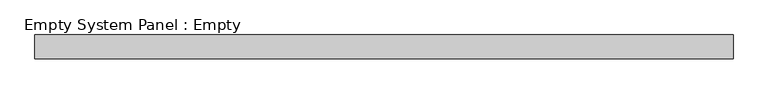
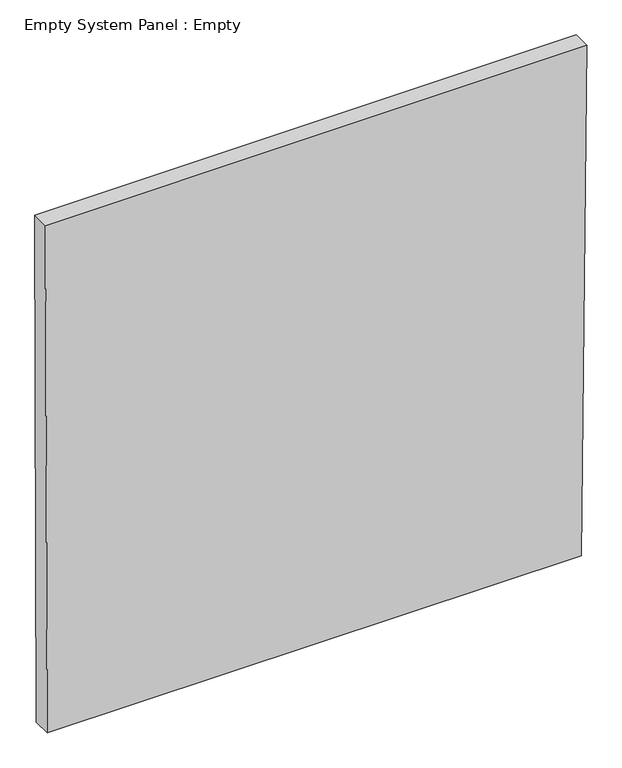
"""IFC4 building model written with IfcOpenShell, lengths in millimetres: plate geometry, Empty System Panel : Empty."""

from ifc_helpers import new_model, si_unit, frame, origin, place, context, project, spatial, polyline, outline, extrude, source, transform, mapped, element, save


def empty_system_panel_empty_326aa2c1(model_context):
    return source(origin(), model_context, "Body", "SweptSolid", [
        extrude(outline(polyline([(0.0, -1492.6618803), (0.0, 1472.4052184), (2982.7210253, 1501.2460491), (2977.1108373, -1501.2460491), (0.0, -1492.6618803)])), frame((0.0, -50.8, 0.0), z_axis=(0.0, 1.0, 0.0), x_axis=(0.0, 0.0, 1.0)), (0.0, 0.0, 1.0), 101.6),
    ])


if __name__ == "__main__":
    model = new_model("IFC4")
    model_context = context("Model", 3, world=origin())
    ifc_project = project(units=[si_unit("LENGTHUNIT", "METRE", prefix="MILLI")], contexts=[model_context])
    site = spatial("IfcSite", under=ifc_project)
    building = spatial("IfcBuilding", under=site)
    placement = place(None, origin())
    empty_system_panel_empty_shape = empty_system_panel_empty_326aa2c1(model_context)
    element("IfcPlate", 1, ObjectType="Empty System Panel : Empty", at=placement, inside=building, context=model_context, shape_type="MappedRepresentation", body=[
        mapped(empty_system_panel_empty_shape, transform((0.0, 0.0, 0.0), x_axis=(1.0, 0.0, 0.0), y_axis=(0.0, 1.0, 0.0), z_axis=(0.0, 0.0, 1.0))),
    ])
    save(model, "model.ifc")
